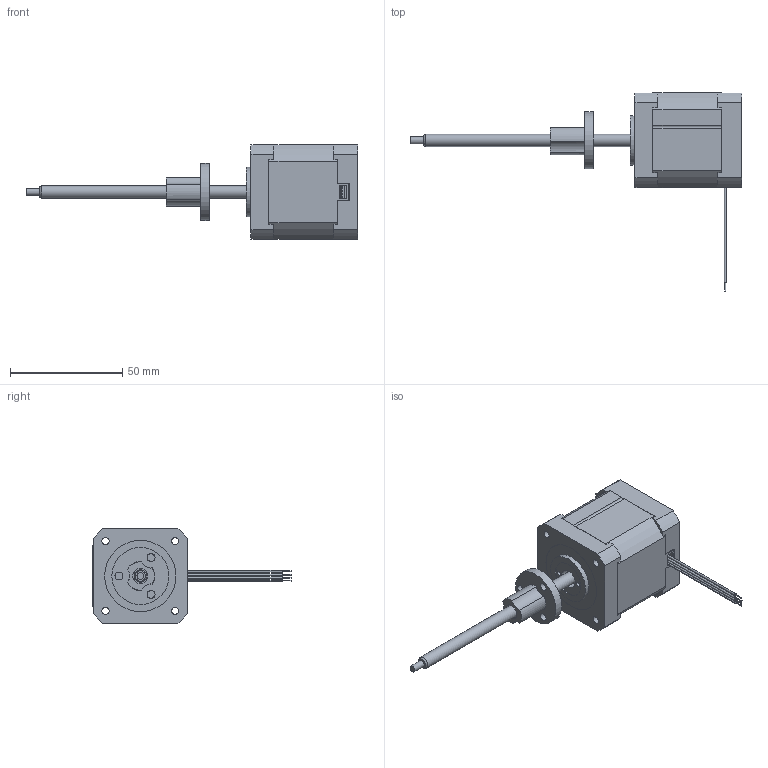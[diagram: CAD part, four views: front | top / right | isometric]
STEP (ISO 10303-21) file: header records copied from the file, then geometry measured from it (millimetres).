
FILE_DESCRIPTION( ('This file contains a STEP AP42 implementation' ,'as created by ZW3D STEP Interface translator.' ,'') ,'2;1' );
FILE_NAME( '42EC4X-XX-XXX_潠趙婦釐.stp' ,'251231. 84850', (''), ('ZWCAD Software Co.'), 'Version 1.0', 'ZW3D to STEP translator', '' );
FILE_SCHEMA(('AUTOMOTIVE_DESIGN { 1 0 10303 214 1 1 1 1 }'));
Length unit declared in the file: millimetre
Products named in the file (1): 0
Bounding box: 147.5 x 88.2 x 42.2 mm (x, y, z)
Volume: 36021.3 mm3; surface area: 31615.6 mm2
Topology: 2 solids, 2 shells, 518 faces, 1296 edges, 829 vertices
Faces by surface type: plane 236, cylinder 178, torus 51, cone 47, bspline 6
Full cylindrical faces by diameter (mm): 0.5 x12, 1 x2, 2 x2, 3 x1, 3.2 x4, 3.3 x4, 3.56 x3, 4 x1, 4.2 x1, 5.54 x2, 5.6 x2, 6 x4, 6.78 x2, 8 x1, 8.5 x1, 9 x1, 16 x3, 22 x3, 25.4 x1, 26.8 x1, 31.75 x1
Entity records: 17675 total; most frequent: CARTESIAN_POINT 4449, DIRECTION 2722, ORIENTED_EDGE 2608, EDGE_CURVE 1296, AXIS2_PLACEMENT_3D 1027, VERTEX_POINT 829, VECTOR 668, LINE 668
